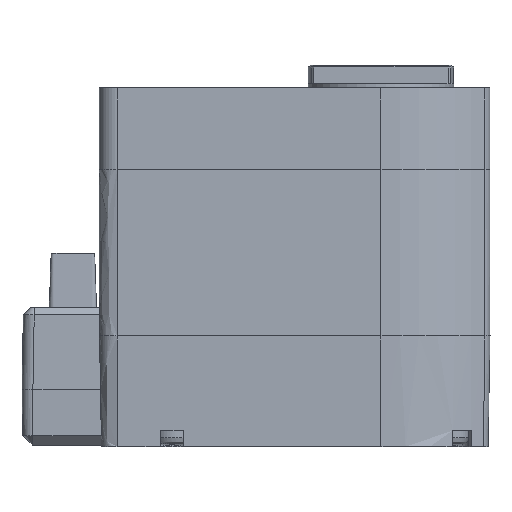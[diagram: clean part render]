
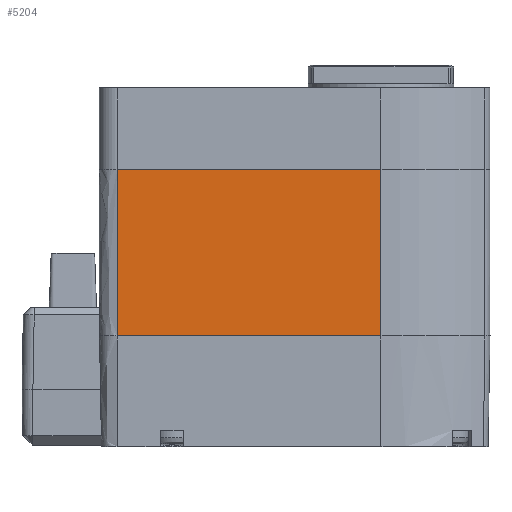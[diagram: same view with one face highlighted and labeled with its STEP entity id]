
A CAD part, front view. The second image highlights one B-rep face of the part: STEP entity #5204.
In plain terms, the highlighted planar face has unit normal (0, -1, 0).
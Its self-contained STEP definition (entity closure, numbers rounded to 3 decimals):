
#438 = CARTESIAN_POINT ( 'NONE',  ( 0., -16., -9. ) ) ;
#552 = EDGE_CURVE ( 'NONE', #12787, #9072, #6173, .T. ) ;
#1650 = CARTESIAN_POINT ( 'NONE',  ( -29., -16., -9. ) ) ;
#3181 = CARTESIAN_POINT ( 'NONE',  ( 0., -16., -27.3 ) ) ;
#3243 = VERTEX_POINT ( 'NONE', #10518 ) ;
#3519 = PLANE ( 'NONE',  #7322 ) ;
#3582 = ORIENTED_EDGE ( 'NONE', *, *, #4299, .T. ) ;
#4060 = CARTESIAN_POINT ( 'NONE',  ( -29., -16., -27.3 ) ) ;
#4299 = EDGE_CURVE ( 'NONE', #9072, #3243, #10423, .T. ) ;
#4603 = CARTESIAN_POINT ( 'NONE',  ( -29., -16., -27.3 ) ) ;
#4701 = B_SPLINE_CURVE_WITH_KNOTS ( 'NONE', 1,
 ( #13108, #1650 ),
 .UNSPECIFIED., .F., .F.,
 ( 2, 2 ),
 ( 0., 18.3 ),
 .UNSPECIFIED. ) ;
#5204 = ADVANCED_FACE ( 'NONE', ( #5713 ), #3519, .T. ) ;
#5713 = FACE_OUTER_BOUND ( 'NONE', #13975, .T. ) ;
#6173 = B_SPLINE_CURVE_WITH_KNOTS ( 'NONE', 1,
 ( #3181, #7741 ),
 .UNSPECIFIED., .F., .F.,
 ( 2, 2 ),
 ( 0., 18.3 ),
 .UNSPECIFIED. ) ;
#7322 = AXIS2_PLACEMENT_3D ( 'NONE', #12526, #7994, #9165 ) ;
#7741 = CARTESIAN_POINT ( 'NONE',  ( 0., -16., -9. ) ) ;
#7767 = EDGE_CURVE ( 'NONE', #12787, #11218, #12623, .T. ) ;
#7994 = DIRECTION ( 'NONE',  ( 0., -1., 0. ) ) ;
#8145 = CARTESIAN_POINT ( 'NONE',  ( 0., -16., -9. ) ) ;
#9072 = VERTEX_POINT ( 'NONE', #438 ) ;
#9165 = DIRECTION ( 'NONE',  ( 0., 0., -1. ) ) ;
#10423 = B_SPLINE_CURVE_WITH_KNOTS ( 'NONE', 1,
 ( #8145, #12674 ),
 .UNSPECIFIED., .F., .F.,
 ( 2, 2 ),
 ( -63., -34. ),
 .UNSPECIFIED. ) ;
#10518 = CARTESIAN_POINT ( 'NONE',  ( -29., -16., -9. ) ) ;
#10572 = ORIENTED_EDGE ( 'NONE', *, *, #7767, .F. ) ;
#11218 = VERTEX_POINT ( 'NONE', #4603 ) ;
#11284 = CARTESIAN_POINT ( 'NONE',  ( 0., -16., -27.3 ) ) ;
#11848 = EDGE_CURVE ( 'NONE', #11218, #3243, #4701, .T. ) ;
#12376 = ORIENTED_EDGE ( 'NONE', *, *, #11848, .F. ) ;
#12517 = ORIENTED_EDGE ( 'NONE', *, *, #552, .T. ) ;
#12526 = CARTESIAN_POINT ( 'NONE',  ( -29., -16., -27.3 ) ) ;
#12623 = B_SPLINE_CURVE_WITH_KNOTS ( 'NONE', 1,
 ( #13239, #4060 ),
 .UNSPECIFIED., .F., .F.,
 ( 2, 2 ),
 ( 0., 29. ),
 .UNSPECIFIED. ) ;
#12674 = CARTESIAN_POINT ( 'NONE',  ( -29., -16., -9. ) ) ;
#12787 = VERTEX_POINT ( 'NONE', #11284 ) ;
#13108 = CARTESIAN_POINT ( 'NONE',  ( -29., -16., -27.3 ) ) ;
#13239 = CARTESIAN_POINT ( 'NONE',  ( 0., -16., -27.3 ) ) ;
#13975 = EDGE_LOOP ( 'NONE', ( #10572, #12517, #3582, #12376 ) ) ;
